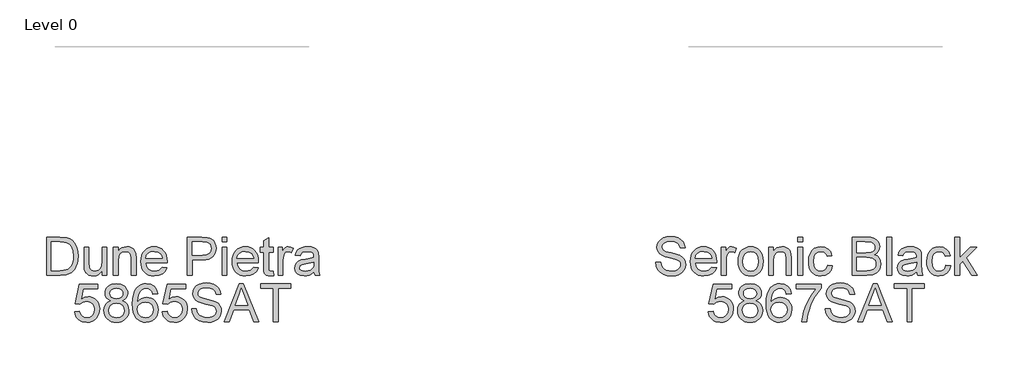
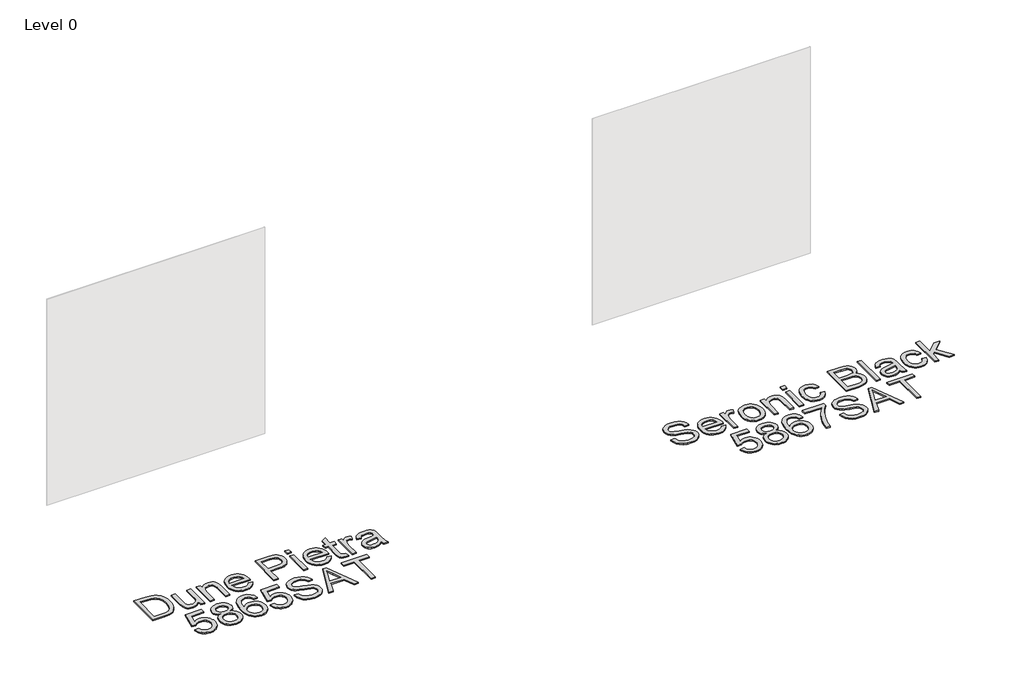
# One storey, part 13 of 29: 2 proxies.
"""IFC4 building model written with IfcOpenShell, lengths in millimetres."""

from ifc_helpers import new_model, si_unit, origin, origin_with_axes, place, context, project, spatial, polyline, outline, extrude, element, save

model = new_model("IFC4")

# Units and contexts
model_context = context("Model", 3, world=origin())
ifc_project = project(units=[si_unit("LENGTHUNIT", "METRE", prefix="MILLI")], contexts=[model_context])

# Site, building, storey
site = spatial("IfcSite", under=ifc_project)
building = spatial("IfcBuilding", under=site)
storey = spatial("IfcBuildingStorey", under=building, Name="Level 0", Elevation=0.0)

# Proxies
placement = place(None, origin())
element("IfcBuildingElementProxy", 1, Name="300mm Arial", ObjectType="300mm Arial", at=placement, inside=storey, context=model_context, shape_type="SweptSolid", body=[
    extrude(outline(polyline([(-519.5759815, -27361.9454346), (-519.5759815, -27060.5765041), (-415.6125297, -27060.5765041), (-361.828182, -27064.9175116), (-337.8054877, -27073.286827), (-317.5351897, -27086.4753966), (-296.6946747, -27109.4312331), (-281.8506362, -27137.9788759), (-272.966286, -27171.566502), (-270.004836, -27209.6422885), (-272.0097928, -27241.988313), (-278.0246635, -27270.4531824), (-287.1849251, -27294.6874088), (-298.6260552, -27314.3415044), (-311.7962306, -27329.8569275), (-326.1436284, -27341.6751366), (-342.6155448, -27350.4399252), (-362.1592758, -27356.7950866), (-410.6093345, -27361.9454346), (-519.5759815, -27361.9454346)]), holes=[polyline([(-481.9048652, -27324.2743182), (-415.2446477, -27324.2743182), (-387.6718921, -27322.9131549), (-366.7578007, -27318.8296647), (-350.9756631, -27312.2629711), (-338.7987691, -27303.4521973), (-325.7113671, -27287.1458279), (-315.8797208, -27266.0385984), (-309.7268944, -27240.0385384), (-307.6759523, -27209.0536774), (-311.6950631, -27167.9980467), (-323.7523955, -27137.6845703), (-341.5670811, -27116.8624494), (-362.8582515, -27104.2808851), (-384.5265011, -27099.7559366), (-416.2747172, -27098.2476204), (-481.9048652, -27098.2476204), (-481.9048652, -27324.2743182)])]), origin_with_axes(), (0.0, 0.0, 1.0), 10.0),
    extrude(outline(polyline([(-81.6492544, -27361.9454346), (-81.6492544, -27323.9064362), (-95.2792824, -27342.6086372), (-111.1533904, -27355.9673521), (-129.2715787, -27363.9825811), (-149.6338471, -27366.6543241), (-167.9819617, -27364.7781259), (-185.0608833, -27359.1495314), (-199.389887, -27350.6882455), (-209.4882478, -27340.3139732), (-220.7086486, -27312.5756708), (-222.9159406, -27277.5533049), (-222.9159406, -27140.6276263), (-185.2448243, -27140.6276263), (-185.2448243, -27259.8213927), (-182.9639559, -27298.228273), (-177.4733171, -27311.0397635), (-168.0647351, -27320.7794393), (-155.3636092, -27326.9322657), (-139.9953389, -27328.9832078), (-123.7441517, -27326.8862804), (-108.5414283, -27320.5954983), (-96.0058493, -27310.6902756), (-87.7560956, -27297.7500264), (-83.1759647, -27280.0273113), (-81.6492544, -27255.7746907), (-81.6492544, -27140.6276263), (-43.9781381, -27140.6276263), (-43.9781381, -27361.9454346), (-81.6492544, -27361.9454346)])), origin_with_axes(), (0.0, 0.0, 1.0), 10.0),
    extrude(outline(polyline([(7.8196468, -27361.9454346), (7.8196468, -27140.6276263), (45.4907631, -27140.6276263), (45.4907631, -27171.5297138), (58.5781651, -27155.9499114), (74.2959233, -27144.821481), (92.6440378, -27138.1444228), (113.6225086, -27135.9187367), (132.1913523, -27137.7121614), (149.1966975, -27143.0924356), (163.3785485, -27151.3881746), (173.4769092, -27161.9279938), (184.7708865, -27189.629508), (186.7574492, -27226.0498255), (186.7574492, -27361.9454346), (149.0863329, -27361.9454346), (149.0863329, -27231.1265971), (144.7453254, -27197.7964883), (138.7396518, -27187.8728715), (129.4046462, -27180.1749407), (117.4392843, -27175.2361249), (103.5425419, -27173.589853), (81.4788193, -27177.2870671), (62.6708523, -27188.3787092), (55.1545633, -27197.4332048), (49.7857854, -27209.8078354), (45.4907631, -27244.5175017), (45.4907631, -27361.9454346), (7.8196468, -27361.9454346)])), origin_with_axes(), (0.0, 0.0, 1.0), 10.0),
    extrude(outline(polyline([(393.5071305, -27296.020981), (430.4424829, -27300.7298706), (417.1343517, -27328.5601435), (395.8983635, -27349.3638703), (367.2127649, -27362.3317106), (331.5558025, -27366.6543241), (308.1815003, -27364.7896222), (287.3547808, -27359.1955166), (269.0756442, -27349.8720073), (253.3440904, -27336.8190943), (240.6935483, -27320.400061), (231.6574468, -27300.9781909), (226.2357859, -27278.553484), (224.4285656, -27253.1259404), (226.25418, -27226.8361733), (231.7310232, -27203.6642061), (240.8590952, -27183.6100389), (253.638396, -27166.6736715), (269.3285631, -27153.2183875), (287.1892339, -27143.6074704), (307.2204086, -27137.8409201), (329.422087, -27135.9187367), (350.9086948, -27137.8363216), (370.3397619, -27143.5890763), (387.7152884, -27153.1770008), (403.0352742, -27166.6000951), (415.5409628, -27183.4996743), (424.4735975, -27203.5170533), (429.8331783, -27226.6522323), (431.6197052, -27252.9052112), (431.398976, -27263.0587542), (262.0996819, -27263.0587542), (268.6203902, -27291.2569092), (283.7679314, -27311.9870596), (305.6293189, -27324.7341707), (332.2915665, -27328.9832078), (352.3411353, -27327.0150391), (369.2269189, -27321.1105331), (382.9489173, -27310.9018077), (393.5071305, -27296.020981)]), holes=[polyline([(262.0996819, -27225.3876379), (393.9485889, -27225.3876379), (388.8534233, -27205.485222), (378.8654271, -27191.2481888), (356.902872, -27178.004437), (329.2749342, -27173.589853), (303.8818795, -27177.1123231), (282.8850146, -27187.6797334), (268.2892964, -27204.1516498), (262.0996819, -27225.3876379)])]), origin_with_axes(), (0.0, 0.0, 1.0), 10.0),
    extrude(outline(polyline([(591.7219495, -27361.9454346), (591.7219495, -27060.5765041), (703.4109233, -27060.5765041), (748.4396795, -27063.4459837), (768.5168394, -27068.8078637), (785.043938, -27077.5358641), (798.3520692, -27090.0254578), (808.7723267, -27106.6721181), (815.5045672, -27126.3078196), (817.7486474, -27147.764537), (816.2334334, -27166.2644028), (811.6877915, -27183.2835436), (804.1117217, -27198.8219594), (793.5052239, -27212.8796501), (778.9439947, -27224.5323123), (759.5037305, -27232.8556424), (735.1844313, -27237.8496405), (705.9860972, -27239.5143066), (629.3930658, -27239.5143066), (629.3930658, -27361.9454346), (591.7219495, -27361.9454346)]), holes=[polyline([(629.3930658, -27201.8431903), (708.1933892, -27201.8431903), (741.5970744, -27198.3850995), (763.6699941, -27188.0108272), (775.9756468, -27171.3641669), (780.0775311, -27149.0889121), (777.6587069, -27132.1663404), (770.4022346, -27117.892519), (759.2094249, -27107.1503647), (744.9815887, -27100.8227944), (707.3104724, -27098.2476204), (629.3930658, -27098.2476204), (629.3930658, -27201.8431903)])]), origin_with_axes(), (0.0, 0.0, 1.0), 10.0),
    extrude(outline(polyline([(864.8375428, -27098.2476204), (864.8375428, -27060.5765041), (902.5086591, -27060.5765041), (902.5086591, -27098.2476204), (864.8375428, -27098.2476204)])), origin_with_axes(), (0.0, 0.0, 1.0), 10.0),
    extrude(outline(polyline([(864.8375428, -27361.9454346), (864.8375428, -27140.6276263), (902.5086591, -27140.6276263), (902.5086591, -27361.9454346), (864.8375428, -27361.9454346)])), origin_with_axes(), (0.0, 0.0, 1.0), 10.0),
    extrude(outline(polyline([(1113.9672299, -27296.020981), (1150.9025822, -27300.7298706), (1137.594451, -27328.5601435), (1116.3584629, -27349.3638703), (1087.6728643, -27362.3317106), (1052.0159019, -27366.6543241), (1028.6415996, -27364.7896222), (1007.8148802, -27359.1955166), (989.5357435, -27349.8720073), (973.8041897, -27336.8190943), (961.1536476, -27320.400061), (952.1175461, -27300.9781909), (946.6958852, -27278.553484), (944.8886649, -27253.1259404), (946.7142793, -27226.8361733), (952.1911225, -27203.6642061), (961.3191945, -27183.6100389), (974.0984953, -27166.6736715), (989.7886624, -27153.2183875), (1007.6493333, -27143.6074704), (1027.6805079, -27137.8409201), (1049.8821863, -27135.9187367), (1071.3687941, -27137.8363216), (1090.7998612, -27143.5890763), (1108.1753877, -27153.1770008), (1123.4953736, -27166.6000951), (1136.0010621, -27183.4996743), (1144.9336968, -27203.5170533), (1150.2932777, -27226.6522323), (1152.0798046, -27252.9052112), (1151.8590754, -27263.0587542), (982.5597812, -27263.0587542), (989.0804896, -27291.2569092), (1004.2280307, -27311.9870596), (1026.0894183, -27324.7341707), (1052.7516659, -27328.9832078), (1072.8012346, -27327.0150391), (1089.6870182, -27321.1105331), (1103.4090166, -27310.9018077), (1113.9672299, -27296.020981)]), holes=[polyline([(982.5597812, -27225.3876379), (1114.4086883, -27225.3876379), (1109.3135227, -27205.485222), (1099.3255265, -27191.2481888), (1077.3629714, -27178.004437), (1049.7350335, -27173.589853), (1024.3419788, -27177.1123231), (1003.3451139, -27187.6797334), (988.7493958, -27204.1516498), (982.5597812, -27225.3876379)])]), origin_with_axes(), (0.0, 0.0, 1.0), 10.0),
    extrude(outline(polyline([(1269.802043, -27330.5283122), (1274.5109326, -27363.0490805), (1246.3311718, -27366.6543241), (1228.2497717, -27365.0908256), (1214.7668966, -27360.4003302), (1205.2387529, -27353.171449), (1199.0215472, -27343.9927932), (1195.6002446, -27328.2290497), (1194.4598104, -27301.2449053), (1194.4598104, -27178.2987426), (1166.2064732, -27178.2987426), (1166.2064732, -27140.6276263), (1194.4598104, -27140.6276263), (1194.4598104, -27086.8432786), (1232.1309267, -27064.6967824), (1232.1309267, -27140.6276263), (1269.802043, -27140.6276263), (1269.802043, -27178.2987426), (1232.1309267, -27178.2987426), (1232.1309267, -27300.1412594), (1234.1174895, -27319.5654287), (1240.5554244, -27326.444822), (1253.3945061, -27328.9832078), (1269.802043, -27330.5283122)])), origin_with_axes(), (0.0, 0.0, 1.0), 10.0),
    extrude(outline(polyline([(1307.4731594, -27361.9454346), (1307.4731594, -27140.6276263), (1340.4353861, -27140.6276263), (1340.4353861, -27173.3691238), (1352.6122802, -27154.3864129), (1363.832681, -27143.2028002), (1375.0898701, -27137.7397526), (1387.3771287, -27135.9187367), (1406.1391105, -27138.8250045), (1425.1953978, -27147.5438078), (1412.6138336, -27181.3153749), (1399.3700817, -27175.5212335), (1386.1263299, -27173.589853), (1374.8783379, -27175.4476571), (1364.8259624, -27181.0210693), (1356.7049674, -27189.8870254), (1351.2511168, -27201.6224611), (1346.6709859, -27222.6653112), (1345.1442757, -27245.6211477), (1345.1442757, -27361.9454346), (1307.4731594, -27361.9454346)])), origin_with_axes(), (0.0, 0.0, 1.0), 10.0),
    extrude(outline(polyline([(1590.0065316, -27333.6920973), (1572.007905, -27349.124747), (1553.4758495, -27359.2231078), (1533.9873008, -27364.79652), (1513.1191947, -27366.6543241), (1481.6376929, -27362.1845578), (1458.415142, -27348.7752591), (1444.0953353, -27328.4129907), (1439.3220664, -27303.0843153), (1441.1246882, -27287.4677246), (1446.5325535, -27273.2858737), (1454.8742778, -27261.1457679), (1465.4784763, -27251.6544124), (1491.8556153, -27239.2935774), (1524.4499601, -27233.6281946), (1562.967205, -27227.6685063), (1589.7858025, -27220.6787484), (1590.0065316, -27212.2910389), (1587.4129636, -27195.4788317), (1579.6322594, -27184.4791601), (1562.231441, -27176.3121798), (1537.9880175, -27173.589853), (1515.5472158, -27175.4016718), (1499.8754428, -27180.8371283), (1489.1884709, -27190.8895038), (1481.7020723, -27206.5520798), (1444.030956, -27201.8431903), (1450.5700584, -27181.2417985), (1460.3281283, -27165.0549907), (1474.2156737, -27152.6757616), (1493.1432023, -27143.4971058), (1516.2921769, -27137.813329), (1542.8440599, -27135.9187367), (1568.310691, -27137.5925998), (1588.4982155, -27142.614189), (1603.719333, -27150.164967), (1614.2867433, -27159.4263962), (1621.2948953, -27170.8767233), (1625.838238, -27184.9941949), (1627.677648, -27217.9564216), (1627.677648, -27264.8245878), (1629.5906343, -27330.2707948), (1637.095427, -27361.9454346), (1599.4243107, -27361.9454346), (1590.0065316, -27333.6920973)]), holes=[polyline([(1590.0065316, -27258.3498647), (1529.232426, -27269.9013594), (1496.8220223, -27276.0082005), (1482.1435307, -27285.9410143), (1476.9931827, -27300.435565), (1479.7982829, -27311.6375717), (1488.2135836, -27320.8162275), (1502.0551437, -27326.9414627), (1521.1390222, -27328.9832078), (1541.3725319, -27326.7299306), (1559.2515969, -27319.9700989), (1573.7461475, -27310.0096939), (1583.8261141, -27298.1546966), (1588.2958804, -27285.9410143), (1589.7858025, -27269.0184426), (1590.0065316, -27258.3498647)])]), origin_with_axes(), (0.0, 0.0, 1.0), 10.0),
    extrude(outline(polyline([(-298.2581732, -27647.8187659), (-260.5870569, -27643.1098764), (-253.6708754, -27665.7254221), (-241.6043459, -27681.9214269), (-224.4426509, -27691.6611027), (-202.2409725, -27694.9076613), (-175.238434, -27690.3919098), (-155.0049243, -27676.8446554), (-142.3681777, -27655.8293964), (-138.1559289, -27628.9096314), (-142.1014633, -27603.5625619), (-153.9380665, -27584.1751808), (-173.757709, -27571.869528), (-201.6523613, -27567.7676438), (-219.9268994, -27569.4047187), (-234.7249526, -27574.3159433), (-255.8781674, -27591.3120915), (-293.5492837, -27586.6032019), (-260.5870569, -27431.2098472), (-114.6114812, -27431.2098472), (-114.6114812, -27468.8809635), (-230.1264277, -27468.8809635), (-246.2396591, -27551.8751416), (-219.3290911, -27535.541181), (-191.1309362, -27530.0965275), (-172.785121, -27531.7841861), (-155.9338263, -27536.8471621), (-140.5770523, -27545.2854554), (-126.7147988, -27557.0990659), (-115.2391799, -27571.5660254), (-107.0423092, -27587.9643653), (-102.1241867, -27606.2940857), (-100.4848126, -27626.5551866), (-106.3893186, -27664.2263029), (-113.7699511, -27681.020116), (-124.1028367, -27696.4527657), (-139.7562156, -27712.2578959), (-158.0215566, -27723.5472746), (-178.8988599, -27730.3209019), (-202.3881253, -27732.5787776), (-239.3878569, -27726.7754392), (-255.0665277, -27719.5212661), (-268.8644018, -27709.3654237), (-280.3446193, -27696.8137499), (-289.0703204, -27682.3720823), (-298.2581732, -27647.8187659)])), origin_with_axes(), (0.0, 0.0, 1.0), 10.0),
    extrude(outline(polyline([(-12.6345921, -27561.8815319), (-32.8037225, -27551.948718), (-46.9579823, -27538.484237), (-55.3181006, -27521.7640003), (-58.1048067, -27502.0639194), (-56.5872935, -27486.7002476), (-52.0347538, -27472.6149657), (-44.4471877, -27459.8080738), (-33.8245951, -27448.2795718), (-20.6774123, -27438.7514281), (-5.5160755, -27431.9456112), (30.8490597, -27426.5009576), (67.4349241, -27432.0743699), (82.7618077, -27439.0411351), (96.1113256, -27448.7946065), (106.9270563, -27460.5484363), (114.6525782, -27473.5162766), (119.2878913, -27487.6981275), (120.8329957, -27503.093989), (118.0830778, -27522.1594734), (109.8333241, -27538.5946016), (95.991764, -27551.9763091), (76.4664271, -27561.8815319), (99.6521898, -27573.8284997), (116.5287764, -27591.4224561), (126.8202752, -27613.8172725), (130.2507748, -27640.1668204), (128.5493206, -27658.9563933), (123.4449579, -27676.1824678), (114.9376867, -27691.8450437), (103.0275071, -27705.9441212), (88.3398185, -27717.5967834), (71.5000202, -27725.9201135), (52.5081122, -27730.9141116), (31.3640945, -27732.5787776), (10.2200768, -27730.9072138), (-8.7718312, -27725.8925224), (-25.6116295, -27717.5347033), (-40.2993182, -27705.8337566), (-52.2094978, -27691.6358108), (-60.7167689, -27675.7869946), (-65.8211316, -27658.287308), (-67.5225858, -27639.1367509), (-63.9541305, -27611.7663304), (-53.2487644, -27589.2519523), (-35.9583106, -27572.3661687), (-12.6345921, -27561.8815319)]), holes=[polyline([(-29.8514695, -27637.8123757), (-23.5606874, -27666.1760775), (-14.8510812, -27678.3437745), (-1.3038267, -27687.4028686), (14.9197693, -27693.0314631), (31.6584001, -27694.9076613), (57.2997751, -27690.9621269), (76.5400035, -27679.1255237), (88.5697447, -27661.2004735), (92.5796585, -27638.9895981), (88.440986, -27616.4016435), (76.0249687, -27598.0811202), (56.343282, -27585.9410143), (30.4076013, -27581.8943124), (5.1249112, -27585.885832), (-13.9221791, -27597.860391), (-25.8691469, -27615.8314265), (-29.8514695, -27637.8123757)]), polyline([(-20.4336904, -27503.1675654), (-17.0951613, -27519.6118906), (-7.079574, -27532.7452778), (9.3187659, -27541.3537165), (31.8055529, -27544.2231961), (53.768108, -27541.3721106), (69.9181276, -27532.8188542), (79.8509414, -27520.1269254), (83.1618794, -27504.8598226), (79.7405768, -27489.0133057), (69.4766692, -27475.9075096), (53.1059204, -27467.1059329), (31.3640945, -27464.1720739), (9.4843128, -27467.0415535), (-6.8588448, -27475.6499922), (-17.039979, -27488.2683446), (-20.4336904, -27503.1675654)])]), origin_with_axes(), (0.0, 0.0, 1.0), 10.0),
    extrude(outline(polyline([(356.2774726, -27506.5520798), (318.6063563, -27511.2609693), (312.5363034, -27492.5909581), (304.3325349, -27479.8438469), (287.2444162, -27468.0900172), (266.5878422, -27464.1720739), (249.0766592, -27466.4529423), (232.5955458, -27473.2955474), (218.4412861, -27487.7073246), (206.8805944, -27507.5453612), (199.072299, -27535.6055604), (196.1752283, -27574.6838253), (211.2859813, -27557.0530807), (229.3949725, -27544.6278663), (249.4905265, -27537.2610293), (270.5609677, -27534.805417), (288.6607619, -27536.4838786), (305.3626045, -27541.5192634), (320.6664955, -27549.9115714), (334.5724349, -27561.6608027), (346.1285281, -27576.0679813), (354.3828803, -27592.4341316), (359.3354917, -27610.7592534), (360.9863622, -27631.043347), (357.8777593, -27658.0182943), (348.5519507, -27683.0250729), (333.7814886, -27704.2334699), (314.3389252, -27719.8132724), (291.1071772, -27729.3874013), (264.9691614, -27732.5787776), (242.5122649, -27730.4634562), (222.2304706, -27724.1174917), (204.1237787, -27713.5408844), (188.192189, -27698.7336341), (175.2036553, -27679.0703414), (165.9261313, -27653.9256071), (160.3596168, -27623.299431), (158.504112, -27587.1918131), (160.5642512, -27546.7109981), (166.7446687, -27512.1622802), (177.0453646, -27483.5456595), (191.4663388, -27460.861136), (207.0967251, -27445.828558), (225.2195118, -27435.0910022), (245.8346991, -27428.6484688), (268.942287, -27426.5009576), (301.9964842, -27431.8168525), (328.4655938, -27447.764537), (347.0068463, -27473.0932123), (356.2774726, -27506.5520798)]), holes=[polyline([(196.1752283, -27630.4547358), (198.3549291, -27647.1473813), (204.8940316, -27663.0858687), (215.0475747, -27676.7894731), (228.0705973, -27686.7774692), (243.7883555, -27692.8751133), (262.0261055, -27694.9076613), (286.8857313, -27690.6954125), (306.4294623, -27678.0586659), (319.0938, -27658.1930382), (323.3152459, -27632.2941457), (319.1489823, -27607.4345199), (306.6501915, -27588.4794001), (286.7753667, -27576.47725), (260.4810011, -27572.4765333), (235.6581635, -27576.47725), (214.9004219, -27588.4794001), (200.8565267, -27606.9746674), (196.1752283, -27630.4547358)])]), origin_with_axes(), (0.0, 0.0, 1.0), 10.0),
    extrude(outline(polyline([(393.9485889, -27647.8187659), (431.6197052, -27643.1098764), (438.5358867, -27665.7254221), (450.6024162, -27681.9214269), (467.7641113, -27691.6611027), (489.9657897, -27694.9076613), (516.9683281, -27690.3919098), (537.2018379, -27676.8446554), (549.8385844, -27655.8293964), (554.0508332, -27628.9096314), (550.1052988, -27603.5625619), (538.2686956, -27584.1751808), (518.4490531, -27571.869528), (490.5544009, -27567.7676438), (472.2798628, -27569.4047187), (457.4818095, -27574.3159433), (436.3285948, -27591.3120915), (398.6574785, -27586.6032019), (431.6197052, -27431.2098472), (577.5952809, -27431.2098472), (577.5952809, -27468.8809635), (462.0803344, -27468.8809635), (445.967103, -27551.8751416), (472.877671, -27535.541181), (501.0758259, -27530.0965275), (519.4216412, -27531.7841861), (536.2729358, -27536.8471621), (551.6297099, -27545.2854554), (565.4919633, -27557.0990659), (576.9675823, -27571.5660254), (585.164453, -27587.9643653), (590.0825754, -27606.2940857), (591.7219495, -27626.5551866), (585.8174435, -27664.2263029), (578.436811, -27681.020116), (568.1039254, -27696.4527657), (552.4505466, -27712.2578959), (534.1852055, -27723.5472746), (513.3079023, -27730.3209019), (489.8186369, -27732.5787776), (452.8189052, -27726.7754392), (437.1402344, -27719.5212661), (423.3423603, -27709.3654237), (411.8621428, -27696.8137499), (403.1364418, -27682.3720823), (393.9485889, -27647.8187659)])), origin_with_axes(), (0.0, 0.0, 1.0), 10.0),
    extrude(outline(polyline([(624.6841763, -27624.2743182), (662.3552926, -27624.2743182), (666.6779061, -27645.1792126), (674.4953985, -27661.9822228), (686.6906866, -27675.3179451), (704.1466873, -27685.820976), (725.483843, -27692.63599), (749.3225963, -27694.9076613), (770.3102641, -27693.187813), (788.6859698, -27688.028268), (803.5759935, -27679.8612877), (814.1066156, -27669.1191335), (820.3698066, -27656.7858896), (822.4575369, -27643.8456404), (820.8940384, -27631.236485), (816.203543, -27620.3379809), (806.6753993, -27611.0397635), (790.5989561, -27603.2314681), (735.7477506, -27588.8472821), (699.7413004, -27579.3283355), (676.7026904, -27570.2692414), (657.9499057, -27557.5957066), (644.6601686, -27542.2366333), (636.7415087, -27524.5231153), (634.1019554, -27504.7862462), (637.3669081, -27482.7225236), (647.1617662, -27462.148723), (663.2290123, -27444.7111164), (685.3111291, -27432.0559758), (711.8170269, -27424.358045), (741.155616, -27421.7920681), (772.9406204, -27424.4776067), (800.7524992, -27432.5342224), (823.5979711, -27445.7963683), (840.4837547, -27464.0984975), (851.1707266, -27486.300176), (855.4197637, -27511.2609693), (817.7486474, -27511.2609693), (810.8324659, -27488.7833794), (796.4114917, -27472.5597834), (773.8787194, -27462.7373342), (742.627144, -27459.4631844), (710.6398045, -27462.700546), (688.6956435, -27472.4126306), (676.0037146, -27486.7048461), (671.7730717, -27503.6826002), (674.7713099, -27518.1587567), (683.7660247, -27529.8022219), (705.0296041, -27540.2132823), (745.2758943, -27550.845072), (786.8097716, -27560.9434328), (811.9361118, -27569.7542066), (833.4112233, -27583.4210227), (848.3932176, -27600.2884122), (857.1947943, -27620.172434), (860.1286532, -27642.8891472), (856.7533359, -27666.1116981), (846.627384, -27687.9546916), (830.1646647, -27706.7534616), (807.7790453, -27720.843342), (780.8592803, -27729.6449187), (750.7941243, -27732.5787776), (713.8863631, -27729.4149925), (683.5085073, -27719.923637), (659.3110691, -27704.067923), (640.9445605, -27681.8110623), (629.1539425, -27654.6981592), (624.6841763, -27624.2743182)])), origin_with_axes(), (0.0, 0.0, 1.0), 10.0),
    extrude(outline(polyline([(881.5393853, -27727.8698881), (1001.8367978, -27426.5009576), (1033.9161077, -27426.5009576), (1154.2135202, -27727.8698881), (1114.4086883, -27727.8698881), (1079.9013571, -27633.6920973), (955.777972, -27633.6920973), (921.3442172, -27727.8698881), (881.5393853, -27727.8698881)]), holes=[polyline([(969.610335, -27596.020981), (1066.1425705, -27596.020981), (1038.9928793, -27521.9295472), (1017.8764527, -27464.1720739), (999.114471, -27515.4548241), (969.610335, -27596.020981)])]), origin_with_axes(), (0.0, 0.0, 1.0), 10.0),
    extrude(outline(polyline([(1269.802043, -27727.8698881), (1269.802043, -27464.1720739), (1170.9153627, -27464.1720739), (1170.9153627, -27426.5009576), (1406.3598397, -27426.5009576), (1406.3598397, -27464.1720739), (1307.4731594, -27464.1720739), (1307.4731594, -27727.8698881), (1269.802043, -27727.8698881)])), origin_with_axes(), (0.0, 0.0, 1.0), 10.0),
])
element("IfcBuildingElementProxy", 2, Name="300mm Arial", ObjectType="300mm Arial", at=placement, inside=storey, context=model_context, shape_type="SweptSolid", body=[
    extrude(outline(polyline([(4287.3595474, -27258.3498647), (4325.0306637, -27258.3498647), (4329.3532772, -27279.2547591), (4337.1707696, -27296.0577692), (4349.3660577, -27309.3934915), (4366.8220584, -27319.8965225), (4388.1592141, -27326.7115365), (4411.9979674, -27328.9832078), (4432.9856352, -27327.2633595), (4451.3613409, -27322.1038145), (4466.2513646, -27313.9368342), (4476.7819868, -27303.1946799), (4483.0451777, -27290.861436), (4485.132908, -27277.9211869), (4483.5694096, -27265.3120315), (4478.8789141, -27254.4135274), (4469.3507705, -27245.1153099), (4453.2743273, -27237.3070146), (4398.4231218, -27222.9228286), (4362.4166715, -27213.4038819), (4339.3780616, -27204.3447878), (4320.6252769, -27191.6712531), (4307.3355398, -27176.3121798), (4299.4168798, -27158.5986617), (4296.7773265, -27138.8617927), (4300.0422792, -27116.79807), (4309.8371373, -27096.2242694), (4325.9043835, -27078.7866629), (4347.9865002, -27066.1315222), (4374.492398, -27058.4335915), (4403.8309871, -27055.8676146), (4435.6159915, -27058.5531531), (4463.4278703, -27066.6097688), (4486.2733422, -27079.8719147), (4503.1591258, -27098.174044), (4513.8460978, -27120.3757224), (4518.0951348, -27145.3365158), (4480.4240185, -27145.3365158), (4473.507837, -27122.8589259), (4459.0868628, -27106.6353299), (4436.5540906, -27096.8128806), (4405.3025151, -27093.5387309), (4373.3151756, -27096.7760924), (4351.3710146, -27106.4881771), (4338.6790858, -27120.7803926), (4334.4484428, -27137.7581467), (4337.4466811, -27152.2343032), (4346.4413959, -27163.8777683), (4367.7049752, -27174.2888288), (4407.9512655, -27184.9206185), (4449.4851427, -27195.0189792), (4474.611483, -27203.829753), (4496.0865945, -27217.4965691), (4511.0685887, -27234.3639586), (4519.8701654, -27254.2479805), (4522.8040244, -27276.9646937), (4519.428707, -27300.1872446), (4509.3027551, -27322.0302381), (4492.8400358, -27340.829008), (4470.4544164, -27354.9188884), (4443.5346514, -27363.7204652), (4413.4694954, -27366.6543241), (4376.5617342, -27363.4905389), (4346.1838785, -27353.9991835), (4321.9864402, -27338.1434695), (4303.6199316, -27315.8866088), (4291.8293137, -27288.7737057), (4287.3595474, -27258.3498647)])), origin_with_axes(), (0.0, 0.0, 1.0), 10.0),
    extrude(outline(polyline([(4729.5537056, -27296.020981), (4766.489058, -27300.7298706), (4753.1809268, -27328.5601435), (4731.9449386, -27349.3638703), (4703.25934, -27362.3317106), (4667.6023777, -27366.6543241), (4644.2280754, -27364.7896222), (4623.4013559, -27359.1955166), (4605.1222193, -27349.8720073), (4589.3906655, -27336.8190943), (4576.7401234, -27320.400061), (4567.7040219, -27300.9781909), (4562.282361, -27278.553484), (4560.4751407, -27253.1259404), (4562.3007551, -27226.8361733), (4567.7775983, -27203.6642061), (4576.9056703, -27183.6100389), (4589.6849711, -27166.6736715), (4605.3751382, -27153.2183875), (4623.235809, -27143.6074704), (4643.2669837, -27137.8409201), (4665.4686621, -27135.9187367), (4686.9552699, -27137.8363216), (4706.386337, -27143.5890763), (4723.7618635, -27153.1770008), (4739.0818493, -27166.6000951), (4751.5875379, -27183.4996743), (4760.5201726, -27203.5170533), (4765.8797534, -27226.6522323), (4767.6662803, -27252.9052112), (4767.4455511, -27263.0587542), (4598.146257, -27263.0587542), (4604.6669653, -27291.2569092), (4619.8145065, -27311.9870596), (4641.675894, -27324.7341707), (4668.3381416, -27328.9832078), (4688.3877104, -27327.0150391), (4705.273494, -27321.1105331), (4718.9954924, -27310.9018077), (4729.5537056, -27296.020981)]), holes=[polyline([(4598.146257, -27225.3876379), (4729.995164, -27225.3876379), (4724.8999984, -27205.485222), (4714.9120022, -27191.2481888), (4692.9494471, -27178.004437), (4665.3215093, -27173.589853), (4639.9284546, -27177.1123231), (4618.9315897, -27187.6797334), (4604.3358715, -27204.1516498), (4598.146257, -27225.3876379)])]), origin_with_axes(), (0.0, 0.0, 1.0), 10.0),
    extrude(outline(polyline([(4805.3373966, -27361.9454346), (4805.3373966, -27140.6276263), (4838.2996234, -27140.6276263), (4838.2996234, -27173.3691238), (4850.4765175, -27154.3864129), (4861.6969183, -27143.2028002), (4872.9541074, -27137.7397526), (4885.241366, -27135.9187367), (4904.0033478, -27138.8250045), (4923.0596351, -27147.5438078), (4910.4780709, -27181.3153749), (4897.234319, -27175.5212335), (4883.9905672, -27173.589853), (4872.7425752, -27175.4476571), (4862.6901997, -27181.0210693), (4854.5692047, -27189.8870254), (4849.1153541, -27201.6224611), (4844.5352232, -27222.6653112), (4843.008513, -27245.6211477), (4843.008513, -27361.9454346), (4805.3373966, -27361.9454346)])), origin_with_axes(), (0.0, 0.0, 1.0), 10.0),
    extrude(outline(polyline([(4937.1863037, -27251.2865304), (4939.2234503, -27222.6239245), (4945.3348899, -27197.925247), (4955.5206227, -27177.190498), (4969.7806485, -27160.4196776), (4984.1372434, -27149.700516), (4999.9837603, -27142.0439719), (5017.3201993, -27137.4500455), (5036.1465604, -27135.9187367), (5056.9295939, -27137.7834386), (5075.7214661, -27143.3775442), (5092.5221769, -27152.7010535), (5107.3317265, -27165.7539665), (5119.4189493, -27182.0948249), (5128.0526799, -27201.2821702), (5133.2329182, -27223.3160025), (5134.9596643, -27248.1963216), (5131.9062438, -27286.253714), (5122.7459821, -27315.2244212), (5107.7455937, -27336.9202618), (5087.1717932, -27353.1530549), (5062.7352316, -27363.2790068), (5036.1465604, -27366.6543241), (5015.0600243, -27364.79652), (4996.0934082, -27359.2231078), (4979.2467121, -27349.9340874), (4964.519936, -27336.9294589), (4952.5614719, -27320.4299514), (4944.0197118, -27300.6562942), (4938.8946557, -27277.6084872), (4937.1863037, -27251.2865304)]), holes=[polyline([(4974.85742, -27251.212954), (4979.2168217, -27285.3064179), (4992.2950266, -27309.5958266), (5011.9767133, -27324.1363625), (5036.1465604, -27328.9832078), (5060.2060429, -27324.1087713), (5079.8509414, -27309.485462), (5092.9291464, -27284.8741566), (5097.288548, -27250.0357316), (5092.9015552, -27216.9355491), (5079.7405768, -27192.9772342), (5060.0680872, -27178.4366983), (5036.1465604, -27173.589853), (5011.9767133, -27178.4183042), (4992.2950266, -27192.9036578), (4979.2168217, -27217.1378842), (4974.85742, -27251.212954)])]), origin_with_axes(), (0.0, 0.0, 1.0), 10.0),
    extrude(outline(polyline([(5177.3396702, -27361.9454346), (5177.3396702, -27140.6276263), (5215.0107865, -27140.6276263), (5215.0107865, -27171.5297138), (5228.0981885, -27155.9499114), (5243.8159467, -27144.821481), (5262.1640612, -27138.1444228), (5283.142532, -27135.9187367), (5301.7113757, -27137.7121614), (5318.7167209, -27143.0924356), (5332.8985718, -27151.3881746), (5342.9969326, -27161.9279938), (5354.2909098, -27189.629508), (5356.2774726, -27226.0498255), (5356.2774726, -27361.9454346), (5318.6063563, -27361.9454346), (5318.6063563, -27231.1265971), (5314.2653488, -27197.7964883), (5308.2596752, -27187.8728715), (5298.9246696, -27180.1749407), (5286.9593077, -27175.2361249), (5273.0625653, -27173.589853), (5250.9988427, -27177.2870671), (5232.1908757, -27188.3787092), (5224.6745866, -27197.4332048), (5219.3058088, -27209.8078354), (5215.0107865, -27244.5175017), (5215.0107865, -27361.9454346), (5177.3396702, -27361.9454346)])), origin_with_axes(), (0.0, 0.0, 1.0), 10.0),
    extrude(outline(polyline([(5408.0752575, -27098.2476204), (5408.0752575, -27060.5765041), (5445.7463739, -27060.5765041), (5445.7463739, -27098.2476204), (5408.0752575, -27098.2476204)])), origin_with_axes(), (0.0, 0.0, 1.0), 10.0),
    extrude(outline(polyline([(5408.0752575, -27361.9454346), (5408.0752575, -27140.6276263), (5445.7463739, -27140.6276263), (5445.7463739, -27361.9454346), (5408.0752575, -27361.9454346)])), origin_with_axes(), (0.0, 0.0, 1.0), 10.0),
    extrude(outline(polyline([(5643.5197345, -27281.8943124), (5681.1908508, -27286.6032019), (5670.6878198, -27320.1080546), (5650.9509508, -27345.427533), (5623.8380477, -27361.3476263), (5591.2069147, -27366.6543241), (5570.0789919, -27364.8034178), (5551.1353684, -27359.2506989), (5534.3760443, -27349.9961675), (5519.8010195, -27337.0398235), (5508.0035037, -27320.6253887), (5499.5767068, -27300.996585), (5494.5206286, -27278.1534124), (5492.8352692, -27252.0958708), (5495.7139458, -27218.572624), (5504.3499757, -27189.5191434), (5518.8813145, -27166.0574692), (5539.445918, -27149.3096413), (5564.0480264, -27139.2664629), (5590.69188, -27135.9187367), (5622.5228696, -27140.5172617), (5647.9711066, -27154.3128365), (5666.2272506, -27176.5696972), (5676.4819612, -27206.5520798), (5638.8108449, -27211.2609693), (5631.9774369, -27194.8258412), (5621.3364501, -27183.0444203), (5607.476496, -27175.9534948), (5590.9861855, -27173.589853), (5566.6415945, -27178.2435603), (5547.3185927, -27192.204682), (5534.7094373, -27216.2273763), (5530.5063855, -27251.0658012), (5534.6174668, -27286.3732757), (5546.9507107, -27310.4787434), (5565.9242246, -27324.3570917), (5589.956116, -27328.9832078), (5609.4630588, -27326.0953341), (5625.4567285, -27317.4317131), (5637.0909966, -27302.7716156), (5643.5197345, -27281.8943124)])), origin_with_axes(), (0.0, 0.0, 1.0), 10.0),
    extrude(outline(polyline([(5836.5842055, -27361.9454346), (5836.5842055, -27060.5765041), (5951.5841172, -27060.5765041), (5983.2127718, -27062.7929931), (6007.9068507, -27069.4424602), (6026.8343793, -27080.6904522), (6041.163383, -27096.702516), (6050.185689, -27115.5380742), (6053.1931243, -27135.2565491), (6050.6639356, -27153.4023285), (6043.0763694, -27170.4628561), (6030.3752435, -27185.389668), (6012.5053756, -27197.1343007), (6033.8517284, -27208.2811252), (6049.6246689, -27225.2404851), (6059.3643448, -27246.8903406), (6062.6109034, -27272.1086513), (6060.3944143, -27293.1239103), (6053.7449473, -27312.612459), (6043.8213305, -27329.1855429), (6031.7823922, -27341.4544074), (6017.0395212, -27350.3387576), (5999.0041064, -27356.7582984), (5950.7012004, -27361.9454346), (5836.5842055, -27361.9454346)]), holes=[polyline([(5874.2553218, -27183.0076321), (5943.0492549, -27183.0076321), (5983.2219688, -27179.7702705), (5997.2842581, -27174.1876613), (6007.3918159, -27165.8275429), (6013.48946, -27154.8186742), (6015.522008, -27141.2898138), (6013.6274157, -27128.1564266), (6007.9436389, -27116.7152966), (5998.7281949, -27107.7849611), (5986.2386012, -27102.1839578), (5937.8253306, -27098.2476204), (5874.2553218, -27098.2476204), (5874.2553218, -27183.0076321)]), polyline([(5874.2553218, -27324.2743182), (5951.5105408, -27324.2743182), (5979.4695725, -27322.8027903), (6003.1243847, -27314.5990218), (6018.7961577, -27297.860391), (6023.4038797, -27286.0329848), (6024.9397871, -27272.4765333), (6023.1371653, -27256.7311839), (6017.7293, -27243.1931265), (6008.2839297, -27232.6073221), (5994.3687933, -27225.7187317), (5974.6595154, -27221.9387442), (5947.8317209, -27220.6787484), (5874.2553218, -27220.6787484), (5874.2553218, -27324.2743182)])]), origin_with_axes(), (0.0, 0.0, 1.0), 10.0),
    extrude(outline(polyline([(6109.6997987, -27361.9454346), (6109.6997987, -27060.5765041), (6147.3709151, -27060.5765041), (6147.3709151, -27361.9454346), (6109.6997987, -27361.9454346)])), origin_with_axes(), (0.0, 0.0, 1.0), 10.0),
    extrude(outline(polyline([(6345.1442757, -27333.6920973), (6327.145649, -27349.124747), (6308.6135935, -27359.2231078), (6289.1250448, -27364.79652), (6268.2569387, -27366.6543241), (6236.7754369, -27362.1845578), (6213.552886, -27348.7752591), (6199.2330793, -27328.4129907), (6194.4598104, -27303.0843153), (6196.2624322, -27287.4677246), (6201.6702975, -27273.2858737), (6210.0120218, -27261.1457679), (6220.6162203, -27251.6544124), (6246.9933593, -27239.2935774), (6279.5877041, -27233.6281946), (6318.104949, -27227.6685063), (6344.9235465, -27220.6787484), (6345.1442757, -27212.2910389), (6342.5507076, -27195.4788317), (6334.7700034, -27184.4791601), (6317.369185, -27176.3121798), (6293.1257615, -27173.589853), (6270.6849598, -27175.4016718), (6255.0131868, -27180.8371283), (6244.3262149, -27190.8895038), (6236.8398163, -27206.5520798), (6199.1687, -27201.8431903), (6205.7078024, -27181.2417985), (6215.4658724, -27165.0549907), (6229.3534177, -27152.6757616), (6248.2809463, -27143.4971058), (6271.4299209, -27137.813329), (6297.9818039, -27135.9187367), (6323.448435, -27137.5925998), (6343.6359595, -27142.614189), (6358.857077, -27150.164967), (6369.4244873, -27159.4263962), (6376.4326393, -27170.8767233), (6380.975982, -27184.9941949), (6382.815392, -27217.9564216), (6382.815392, -27264.8245878), (6384.7283783, -27330.2707948), (6392.233171, -27361.9454346), (6354.5620547, -27361.9454346), (6345.1442757, -27333.6920973)]), holes=[polyline([(6345.1442757, -27258.3498647), (6284.3701701, -27269.9013594), (6251.9597663, -27276.0082005), (6237.2812747, -27285.9410143), (6232.1309267, -27300.435565), (6234.936027, -27311.6375717), (6243.3513276, -27320.8162275), (6257.1928877, -27326.9414627), (6276.2767662, -27328.9832078), (6296.5102759, -27326.7299306), (6314.3893409, -27319.9700989), (6328.8838915, -27310.0096939), (6338.9638581, -27298.1546966), (6343.4336244, -27285.9410143), (6344.9235465, -27269.0184426), (6345.1442757, -27258.3498647)])]), origin_with_axes(), (0.0, 0.0, 1.0), 10.0),
    extrude(outline(polyline([(6575.879863, -27281.8943124), (6613.5509793, -27286.6032019), (6603.0479484, -27320.1080546), (6583.3110793, -27345.427533), (6556.1981763, -27361.3476263), (6523.5670433, -27366.6543241), (6502.4391205, -27364.8034178), (6483.495497, -27359.2506989), (6466.7361729, -27349.9961675), (6452.1611481, -27337.0398235), (6440.3636323, -27320.6253887), (6431.9368354, -27300.996585), (6426.8807572, -27278.1534124), (6425.1953978, -27252.0958708), (6428.0740744, -27218.572624), (6436.7101043, -27189.5191434), (6451.2414431, -27166.0574692), (6471.8060466, -27149.3096413), (6496.408155, -27139.2664629), (6523.0520085, -27135.9187367), (6554.8829982, -27140.5172617), (6580.3312352, -27154.3128365), (6598.5873792, -27176.5696972), (6608.8420898, -27206.5520798), (6571.1709735, -27211.2609693), (6564.3375654, -27194.8258412), (6553.6965787, -27183.0444203), (6539.8366246, -27175.9534948), (6523.3463141, -27173.589853), (6499.0017231, -27178.2435603), (6479.6787213, -27192.204682), (6467.0695659, -27216.2273763), (6462.8665141, -27251.0658012), (6466.9775954, -27286.3732757), (6479.3108393, -27310.4787434), (6498.2843532, -27324.3570917), (6522.3162445, -27328.9832078), (6541.8231873, -27326.0953341), (6557.8168571, -27317.4317131), (6569.4511252, -27302.7716156), (6575.879863, -27281.8943124)])), origin_with_axes(), (0.0, 0.0, 1.0), 10.0),
    extrude(outline(polyline([(6646.5132061, -27361.9454346), (6646.5132061, -27060.5765041), (6684.1843224, -27060.5765041), (6684.1843224, -27222.5181584), (6768.6500285, -27140.6276263), (6820.742119, -27140.6276263), (6735.2463433, -27223.548228), (6825.4510086, -27361.9454346), (6781.4523219, -27361.9454346), (6708.2438049, -27249.741426), (6684.1843224, -27273.0651445), (6684.1843224, -27361.9454346), (6646.5132061, -27361.9454346)])), origin_with_axes(), (0.0, 0.0, 1.0), 10.0),
    extrude(outline(polyline([(4701.7418268, -27647.8187659), (4739.4129431, -27643.1098764), (4746.3291246, -27665.7254221), (4758.3956541, -27681.9214269), (4775.5573491, -27691.6611027), (4797.7590275, -27694.9076613), (4824.761566, -27690.3919098), (4844.9950757, -27676.8446554), (4857.6318223, -27655.8293964), (4861.8440711, -27628.9096314), (4857.8985367, -27603.5625619), (4846.0619335, -27584.1751808), (4826.242291, -27571.869528), (4798.3476387, -27567.7676438), (4780.0731006, -27569.4047187), (4765.2750474, -27574.3159433), (4744.1218326, -27591.3120915), (4706.4507163, -27586.6032019), (4739.4129431, -27431.2098472), (4885.3885188, -27431.2098472), (4885.3885188, -27468.8809635), (4769.8735723, -27468.8809635), (4753.7603409, -27551.8751416), (4780.6709089, -27535.541181), (4808.8690638, -27530.0965275), (4827.214879, -27531.7841861), (4844.0661737, -27536.8471621), (4859.4229477, -27545.2854554), (4873.2852012, -27557.0990659), (4884.7608201, -27571.5660254), (4892.9576908, -27587.9643653), (4897.8758133, -27606.2940857), (4899.5151874, -27626.5551866), (4893.6106814, -27664.2263029), (4886.2300489, -27681.020116), (4875.8971633, -27696.4527657), (4860.2437844, -27712.2578959), (4841.9784434, -27723.5472746), (4821.1011401, -27730.3209019), (4797.6118747, -27732.5787776), (4760.6121431, -27726.7754392), (4744.9334723, -27719.5212661), (4731.1355982, -27709.3654237), (4719.6553807, -27696.8137499), (4710.9296796, -27682.3720823), (4701.7418268, -27647.8187659)])), origin_with_axes(), (0.0, 0.0, 1.0), 10.0),
    extrude(outline(polyline([(4987.3654079, -27561.8815319), (4967.1962775, -27551.948718), (4953.0420177, -27538.484237), (4944.6818994, -27521.7640003), (4941.8951933, -27502.0639194), (4943.4127065, -27486.7002476), (4947.9652462, -27472.6149657), (4955.5528123, -27459.8080738), (4966.1754049, -27448.2795718), (4979.3225877, -27438.7514281), (4994.4839245, -27431.9456112), (5030.8490597, -27426.5009576), (5067.4349241, -27432.0743699), (5082.7618077, -27439.0411351), (5096.1113256, -27448.7946065), (5106.9270563, -27460.5484363), (5114.6525782, -27473.5162766), (5119.2878913, -27487.6981275), (5120.8329957, -27503.093989), (5118.0830778, -27522.1594734), (5109.8333241, -27538.5946016), (5095.991764, -27551.9763091), (5076.4664271, -27561.8815319), (5099.6521898, -27573.8284997), (5116.5287764, -27591.4224561), (5126.8202752, -27613.8172725), (5130.2507748, -27640.1668204), (5128.5493206, -27658.9563933), (5123.4449579, -27676.1824678), (5114.9376867, -27691.8450437), (5103.0275071, -27705.9441212), (5088.3398185, -27717.5967834), (5071.5000202, -27725.9201135), (5052.5081122, -27730.9141116), (5031.3640945, -27732.5787776), (5010.2200768, -27730.9072138), (4991.2281688, -27725.8925224), (4974.3883705, -27717.5347033), (4959.7006818, -27705.8337566), (4947.7905022, -27691.6358108), (4939.2832311, -27675.7869946), (4934.1788684, -27658.287308), (4932.4774142, -27639.1367509), (4936.0458695, -27611.7663304), (4946.7512356, -27589.2519523), (4964.0416894, -27572.3661687), (4987.3654079, -27561.8815319)]), holes=[polyline([(4970.1485305, -27637.8123757), (4976.4393126, -27666.1760775), (4985.1489188, -27678.3437745), (4998.6961733, -27687.4028686), (5014.9197693, -27693.0314631), (5031.6584001, -27694.9076613), (5057.2997751, -27690.9621269), (5076.5400035, -27679.1255237), (5088.5697447, -27661.2004735), (5092.5796585, -27638.9895981), (5088.440986, -27616.4016435), (5076.0249687, -27598.0811202), (5056.343282, -27585.9410143), (5030.4076013, -27581.8943124), (5005.1249112, -27585.885832), (4986.0778209, -27597.860391), (4974.1308531, -27615.8314265), (4970.1485305, -27637.8123757)]), polyline([(4979.5663096, -27503.1675654), (4982.9048387, -27519.6118906), (4992.920426, -27532.7452778), (5009.3187659, -27541.3537165), (5031.8055529, -27544.2231961), (5053.768108, -27541.3721106), (5069.9181276, -27532.8188542), (5079.8509414, -27520.1269254), (5083.1618794, -27504.8598226), (5079.7405768, -27489.0133057), (5069.4766692, -27475.9075096), (5053.1059204, -27467.1059329), (5031.3640945, -27464.1720739), (5009.4843128, -27467.0415535), (4993.1411552, -27475.6499922), (4982.960021, -27488.2683446), (4979.5663096, -27503.1675654)])]), origin_with_axes(), (0.0, 0.0, 1.0), 10.0),
    extrude(outline(polyline([(5356.2774726, -27506.5520798), (5318.6063563, -27511.2609693), (5312.5363034, -27492.5909581), (5304.3325349, -27479.8438469), (5287.2444162, -27468.0900172), (5266.5878422, -27464.1720739), (5249.0766592, -27466.4529423), (5232.5955458, -27473.2955474), (5218.4412861, -27487.7073246), (5206.8805944, -27507.5453612), (5199.072299, -27535.6055604), (5196.1752283, -27574.6838253), (5211.2859813, -27557.0530807), (5229.3949725, -27544.6278663), (5249.4905265, -27537.2610293), (5270.5609677, -27534.805417), (5288.6607619, -27536.4838786), (5305.3626045, -27541.5192634), (5320.6664955, -27549.9115714), (5334.5724349, -27561.6608027), (5346.1285281, -27576.0679813), (5354.3828803, -27592.4341316), (5359.3354917, -27610.7592534), (5360.9863622, -27631.043347), (5357.8777593, -27658.0182943), (5348.5519507, -27683.0250729), (5333.7814886, -27704.2334699), (5314.3389252, -27719.8132724), (5291.1071772, -27729.3874013), (5264.9691614, -27732.5787776), (5242.5122649, -27730.4634562), (5222.2304706, -27724.1174917), (5204.1237787, -27713.5408844), (5188.192189, -27698.7336341), (5175.2036553, -27679.0703414), (5165.9261313, -27653.9256071), (5160.3596168, -27623.299431), (5158.504112, -27587.1918131), (5160.5642512, -27546.7109981), (5166.7446687, -27512.1622802), (5177.0453646, -27483.5456595), (5191.4663388, -27460.861136), (5207.0967251, -27445.828558), (5225.2195118, -27435.0910022), (5245.8346991, -27428.6484688), (5268.942287, -27426.5009576), (5301.9964842, -27431.8168525), (5328.4655938, -27447.764537), (5347.0068463, -27473.0932123), (5356.2774726, -27506.5520798)]), holes=[polyline([(5196.1752283, -27630.4547358), (5198.3549291, -27647.1473813), (5204.8940316, -27663.0858687), (5215.0475747, -27676.7894731), (5228.0705973, -27686.7774692), (5243.7883555, -27692.8751133), (5262.0261055, -27694.9076613), (5286.8857313, -27690.6954125), (5306.4294623, -27678.0586659), (5319.0938, -27658.1930382), (5323.3152459, -27632.2941457), (5319.1489823, -27607.4345199), (5306.6501915, -27588.4794001), (5286.7753667, -27576.47725), (5260.4810011, -27572.4765333), (5235.6581635, -27576.47725), (5214.9004219, -27588.4794001), (5200.8565267, -27606.9746674), (5196.1752283, -27630.4547358)])]), origin_with_axes(), (0.0, 0.0, 1.0), 10.0),
    extrude(outline(polyline([(5393.9485889, -27468.8809635), (5393.9485889, -27431.2098472), (5591.7219495, -27431.2098472), (5591.7219495, -27461.6704764), (5563.5329917, -27497.3458329), (5535.6199453, -27542.7148799), (5510.9994427, -27593.6389451), (5492.6881164, -27645.979356), (5483.7117958, -27685.1403943), (5478.7086006, -27727.8698881), (5441.0374843, -27727.8698881), (5445.1117774, -27689.0399435), (5456.0102815, -27642.8891472), (5473.438691, -27593.9700389), (5497.1027004, -27546.8351583), (5524.7306382, -27504.2252262), (5554.0508332, -27468.8809635), (5393.9485889, -27468.8809635)])), origin_with_axes(), (0.0, 0.0, 1.0), 10.0),
    extrude(outline(polyline([(5624.6841763, -27624.2743182), (5662.3552926, -27624.2743182), (5666.6779061, -27645.1792126), (5674.4953985, -27661.9822228), (5686.6906866, -27675.3179451), (5704.1466873, -27685.820976), (5725.483843, -27692.63599), (5749.3225963, -27694.9076613), (5770.3102641, -27693.187813), (5788.6859698, -27688.028268), (5803.5759935, -27679.8612877), (5814.1066156, -27669.1191335), (5820.3698066, -27656.7858896), (5822.4575369, -27643.8456404), (5820.8940384, -27631.236485), (5816.203543, -27620.3379809), (5806.6753993, -27611.0397635), (5790.5989561, -27603.2314681), (5735.7477506, -27588.8472821), (5699.7413004, -27579.3283355), (5676.7026904, -27570.2692414), (5657.9499057, -27557.5957066), (5644.6601686, -27542.2366333), (5636.7415087, -27524.5231153), (5634.1019554, -27504.7862462), (5637.3669081, -27482.7225236), (5647.1617662, -27462.148723), (5663.2290123, -27444.7111164), (5685.3111291, -27432.0559758), (5711.8170269, -27424.358045), (5741.155616, -27421.7920681), (5772.9406204, -27424.4776067), (5800.7524992, -27432.5342224), (5823.5979711, -27445.7963683), (5840.4837547, -27464.0984975), (5851.1707266, -27486.300176), (5855.4197637, -27511.2609693), (5817.7486474, -27511.2609693), (5810.8324659, -27488.7833794), (5796.4114917, -27472.5597834), (5773.8787194, -27462.7373342), (5742.627144, -27459.4631844), (5710.6398045, -27462.700546), (5688.6956435, -27472.4126306), (5676.0037146, -27486.7048461), (5671.7730717, -27503.6826002), (5674.7713099, -27518.1587567), (5683.7660247, -27529.8022219), (5705.0296041, -27540.2132823), (5745.2758943, -27550.845072), (5786.8097716, -27560.9434328), (5811.9361118, -27569.7542066), (5833.4112233, -27583.4210227), (5848.3932176, -27600.2884122), (5857.1947943, -27620.172434), (5860.1286532, -27642.8891472), (5856.7533359, -27666.1116981), (5846.627384, -27687.9546916), (5830.1646647, -27706.7534616), (5807.7790453, -27720.843342), (5780.8592803, -27729.6449187), (5750.7941243, -27732.5787776), (5713.8863631, -27729.4149925), (5683.5085073, -27719.923637), (5659.3110691, -27704.067923), (5640.9445605, -27681.8110623), (5629.1539425, -27654.6981592), (5624.6841763, -27624.2743182)])), origin_with_axes(), (0.0, 0.0, 1.0), 10.0),
    extrude(outline(polyline([(5881.5393853, -27727.8698881), (6001.8367978, -27426.5009576), (6033.9161077, -27426.5009576), (6154.2135202, -27727.8698881), (6114.4086883, -27727.8698881), (6079.9013571, -27633.6920973), (5955.777972, -27633.6920973), (5921.3442172, -27727.8698881), (5881.5393853, -27727.8698881)]), holes=[polyline([(5969.610335, -27596.020981), (6066.1425705, -27596.020981), (6038.9928793, -27521.9295472), (6017.8764527, -27464.1720739), (5999.114471, -27515.4548241), (5969.610335, -27596.020981)])]), origin_with_axes(), (0.0, 0.0, 1.0), 10.0),
    extrude(outline(polyline([(6269.802043, -27727.8698881), (6269.802043, -27464.1720739), (6170.9153627, -27464.1720739), (6170.9153627, -27426.5009576), (6406.3598397, -27426.5009576), (6406.3598397, -27464.1720739), (6307.4731594, -27464.1720739), (6307.4731594, -27727.8698881), (6269.802043, -27727.8698881)])), origin_with_axes(), (0.0, 0.0, 1.0), 10.0),
])

save(model, "model.ifc")
